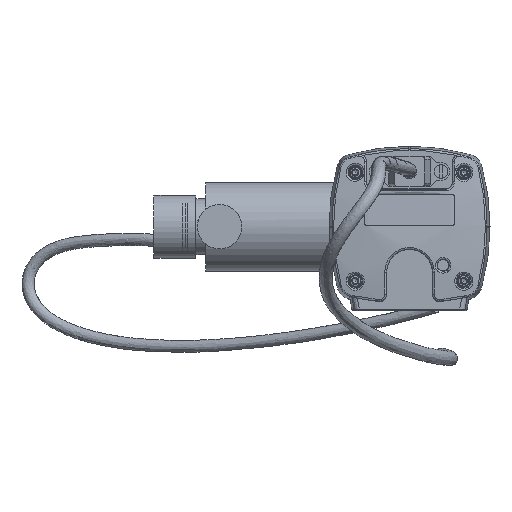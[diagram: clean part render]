
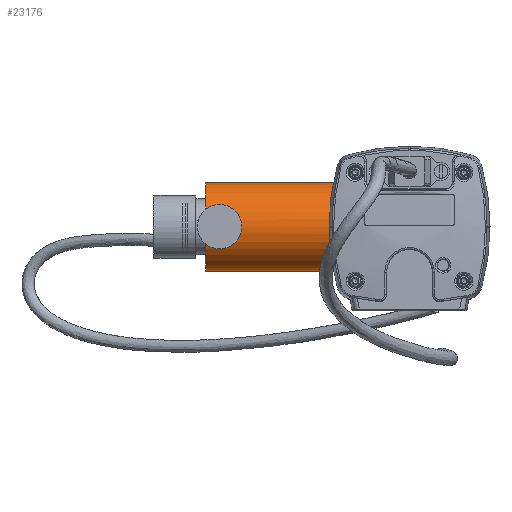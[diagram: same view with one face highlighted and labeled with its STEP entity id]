
A CAD part, left-side view. The second image highlights one B-rep face of the part: STEP entity #23176.
In plain terms, the highlighted cylindrical face has radius 12.65 mm (diameter 25.3 mm), a full revolution.
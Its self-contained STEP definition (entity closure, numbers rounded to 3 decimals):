
#474=B_SPLINE_CURVE_WITH_KNOTS('',3,(#34390,#34391,#34392,#34393,#34394,
#34395,#34396,#34397,#34398,#34399),.UNSPECIFIED.,.F.,.F.,(4,2,2,2,4),(0.,
0.075,0.151,0.226,0.302),
 .UNSPECIFIED.);
#475=B_SPLINE_CURVE_WITH_KNOTS('',3,(#34400,#34401,#34402,#34403,#34404,
#34405,#34406,#34407,#34408,#34409,#34410,#34411,#34412,#34413,#34414,#34415,
#34416,#34417,#34418,#34419,#34420,#34421,#34422,#34423,#34424,#34425),
 .UNSPECIFIED.,.F.,.F.,(4,2,2,2,2,2,2,2,2,2,2,2,4),(0.302,0.377,
0.453,0.528,0.604,0.679,0.755,
0.83,0.906,0.981,1.057,
1.132,1.208),.UNSPECIFIED.);
#1019=FACE_BOUND('',#4180,.T.);
#1359=CIRCLE('',#24690,12.65);
#1360=CIRCLE('',#24691,12.65);
#2342=CYLINDRICAL_SURFACE('',#24689,12.65);
#2892=FACE_OUTER_BOUND('',#4179,.T.);
#4179=EDGE_LOOP('',(#15400,#15401,#15402,#15403));
#4180=EDGE_LOOP('',(#15404,#15405));
#5797=LINE('',#34458,#7367);
#7367=VECTOR('',#28043,12.65);
#8869=VERTEX_POINT('',#34388);
#8870=VERTEX_POINT('',#34389);
#8881=VERTEX_POINT('',#34455);
#8882=VERTEX_POINT('',#34457);
#11379=EDGE_CURVE('',#8869,#8870,#474,.T.);
#11380=EDGE_CURVE('',#8870,#8869,#475,.T.);
#11394=EDGE_CURVE('',#8881,#8881,#1359,.T.);
#11395=EDGE_CURVE('',#8881,#8882,#5797,.T.);
#11396=EDGE_CURVE('',#8882,#8882,#1360,.T.);
#15400=ORIENTED_EDGE('',*,*,#11394,.T.);
#15401=ORIENTED_EDGE('',*,*,#11395,.T.);
#15402=ORIENTED_EDGE('',*,*,#11396,.T.);
#15403=ORIENTED_EDGE('',*,*,#11395,.F.);
#15404=ORIENTED_EDGE('',*,*,#11379,.T.);
#15405=ORIENTED_EDGE('',*,*,#11380,.T.);
#23176=ADVANCED_FACE('',(#2892,#1019),#2342,.T.);
#24689=AXIS2_PLACEMENT_3D('',#34454,#28039,#28040);
#24690=AXIS2_PLACEMENT_3D('',#34456,#28041,#28042);
#24691=AXIS2_PLACEMENT_3D('',#34459,#28044,#28045);
#28039=DIRECTION('center_axis',(0.,-1.,0.));
#28040=DIRECTION('ref_axis',(-1.,0.,0.));
#28041=DIRECTION('center_axis',(0.,1.,0.));
#28042=DIRECTION('ref_axis',(-1.,0.,0.));
#28043=DIRECTION('',(0.,1.,0.));
#28044=DIRECTION('center_axis',(0.,-1.,0.));
#28045=DIRECTION('ref_axis',(-1.,0.,0.));
#34388=CARTESIAN_POINT('',(66.509,34.95,2.));
#34389=CARTESIAN_POINT('',(66.35,32.95,0.));
#34390=CARTESIAN_POINT('Ctrl Pts',(66.509,34.95,2.));
#34391=CARTESIAN_POINT('Ctrl Pts',(66.509,34.698,2.));
#34392=CARTESIAN_POINT('Ctrl Pts',(66.501,34.43,1.95));
#34393=CARTESIAN_POINT('Ctrl Pts',(66.471,33.938,1.745));
#34394=CARTESIAN_POINT('Ctrl Pts',(66.449,33.713,1.592));
#34395=CARTESIAN_POINT('Ctrl Pts',(66.409,33.358,1.237));
#34396=CARTESIAN_POINT('Ctrl Pts',(66.388,33.205,1.012));
#34397=CARTESIAN_POINT('Ctrl Pts',(66.358,33.,0.52));
#34398=CARTESIAN_POINT('Ctrl Pts',(66.35,32.95,0.252));
#34399=CARTESIAN_POINT('Ctrl Pts',(66.35,32.95,0.));
#34400=CARTESIAN_POINT('Ctrl Pts',(66.35,32.95,0.));
#34401=CARTESIAN_POINT('Ctrl Pts',(66.35,32.95,-0.252));
#34402=CARTESIAN_POINT('Ctrl Pts',(66.358,33.,-0.52));
#34403=CARTESIAN_POINT('Ctrl Pts',(66.388,33.205,-1.012));
#34404=CARTESIAN_POINT('Ctrl Pts',(66.409,33.358,-1.237));
#34405=CARTESIAN_POINT('Ctrl Pts',(66.449,33.713,-1.592));
#34406=CARTESIAN_POINT('Ctrl Pts',(66.471,33.938,-1.745));
#34407=CARTESIAN_POINT('Ctrl Pts',(66.501,34.43,-1.95));
#34408=CARTESIAN_POINT('Ctrl Pts',(66.509,34.698,-2.));
#34409=CARTESIAN_POINT('Ctrl Pts',(66.509,35.202,-2.));
#34410=CARTESIAN_POINT('Ctrl Pts',(66.501,35.47,-1.95));
#34411=CARTESIAN_POINT('Ctrl Pts',(66.471,35.962,-1.745));
#34412=CARTESIAN_POINT('Ctrl Pts',(66.449,36.187,-1.592));
#34413=CARTESIAN_POINT('Ctrl Pts',(66.409,36.542,-1.237));
#34414=CARTESIAN_POINT('Ctrl Pts',(66.388,36.695,-1.012));
#34415=CARTESIAN_POINT('Ctrl Pts',(66.358,36.9,-0.52));
#34416=CARTESIAN_POINT('Ctrl Pts',(66.35,36.95,-0.252));
#34417=CARTESIAN_POINT('Ctrl Pts',(66.35,36.95,0.252));
#34418=CARTESIAN_POINT('Ctrl Pts',(66.358,36.9,0.52));
#34419=CARTESIAN_POINT('Ctrl Pts',(66.388,36.695,1.012));
#34420=CARTESIAN_POINT('Ctrl Pts',(66.409,36.542,1.237));
#34421=CARTESIAN_POINT('Ctrl Pts',(66.449,36.187,1.592));
#34422=CARTESIAN_POINT('Ctrl Pts',(66.471,35.962,1.745));
#34423=CARTESIAN_POINT('Ctrl Pts',(66.501,35.47,1.95));
#34424=CARTESIAN_POINT('Ctrl Pts',(66.509,35.202,2.));
#34425=CARTESIAN_POINT('Ctrl Pts',(66.509,34.95,2.));
#34454=CARTESIAN_POINT('Origin',(79.,38.95,0.));
#34455=CARTESIAN_POINT('',(91.65,0.35,0.));
#34456=CARTESIAN_POINT('Origin',(79.,0.35,0.));
#34457=CARTESIAN_POINT('',(91.65,38.95,0.));
#34458=CARTESIAN_POINT('',(91.65,38.95,0.));
#34459=CARTESIAN_POINT('Origin',(79.,38.95,0.));
